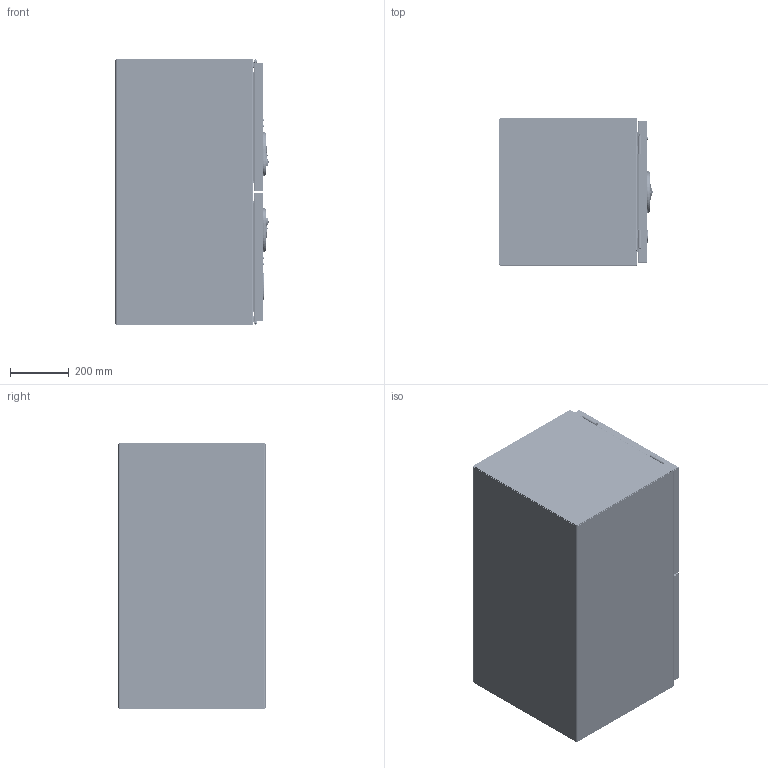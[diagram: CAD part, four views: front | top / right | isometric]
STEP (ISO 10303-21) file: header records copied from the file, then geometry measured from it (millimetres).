
FILE_DESCRIPTION (( 'STEP AP203' ), '1' );
FILE_NAME ('Alu TB (Heavy Duty) with S-Steel Double Door(L900xH500xD500).STEP', '2023-12-18T03:10:06', ( '' ), ( '' ), 'SwSTEP 2.0', 'SolidWorks 2021', '' );
FILE_SCHEMA (( 'CONFIG_CONTROL_DESIGN' ));
Length unit declared in the file: millimetre
Products named in the file (25): Ass Barrel hinge Female Part LH (S-STEEL); Barrel hinge Female Part LH; Card board Box L1200xH500xD500; TA008-1200-STEEL RECTANGULAR PLATE-RH; TA008-1200-P2-LEFT (ALU)_MirrorDefault; Stainless steel washer to suit M4_B18.22M - Plain washer, 4 mm, narrow; TA008-900-P4-LID (S-STEEL)-L; Barrel hinge Female Part RH; GLUE; Grease nipple M6; TA008-1200-P3-MIDDLE PLATE (ALU); TA008-900-P4-LID (S-STEEL)-R; Domed Allen Head Bolt M4-15mm long_B18.3.4M - 4 x 0.7 x 16 SBHCS --C; LABLE; Brass washer M6_Washer ISO 7090 - 6; Alu TB (Heavy Duty) with S-Steel Double Door(L900xH500xD500); TA008-1200-STEEL RECTANGULAR PLATE_LH; TA008-900-P1-BODY (ALU); Barrel Hinge Female Part (S-Steel) Weld on; TA008-1200-P2-LEFT (ALU); Nyloc Nut M4_DIN EN ISO 7040 - M5 - C; TA008-1200-STEEL SQUARE PLATE; AC-Rivet 4mm x 8mmL S-Steel Sealed Dome Rivet; T-Latch Modular (Change for Heavy Duty); Ass Barrel hinge Female Part RH (S-STEEL)
Assembly tree (57 placements, depth 3):
  Card board Box L1200xH500xD500
  GLUE
  Alu TB (Heavy Duty) with S-Steel Double Door(L900xH500xD500)
    TA008-900-P1-BODY (ALU)
    TA008-1200-P2-LEFT (ALU)
    TA008-1200-P3-MIDDLE PLATE (ALU)
    TA008-900-P4-LID (S-STEEL)-L
    TA008-900-P4-LID (S-STEEL)-R
    TA008-1200-STEEL RECTANGULAR PLATE_LH
    TA008-1200-STEEL RECTANGULAR PLATE-RH
    TA008-1200-STEEL SQUARE PLATE  x2
    Ass Barrel hinge Female Part RH (S-STEEL)  x2
      Barrel hinge Female Part RH
      Barrel Hinge Female Part (S-Steel) Weld on
      Grease nipple M6
      Domed Allen Head Bolt M4-15mm long_B18.3.4M - 4 x 0.7 x 16 SBHCS --C
      Stainless steel washer to suit M4_B18.22M - Plain washer, 4 mm, narrow
      Nyloc Nut M4_DIN EN ISO 7040 - M5 - C
      Brass washer M6_Washer ISO 7090 - 6
    Ass Barrel hinge Female Part LH (S-STEEL)  x2
      Barrel hinge Female Part LH
      Barrel Hinge Female Part (S-Steel) Weld on
      Grease nipple M6
      Domed Allen Head Bolt M4-15mm long_B18.3.4M - 4 x 0.7 x 16 SBHCS --C
      Stainless steel washer to suit M4_B18.22M - Plain washer, 4 mm, narrow
      Nyloc Nut M4_DIN EN ISO 7040 - M5 - C
      Brass washer M6_Washer ISO 7090 - 6
    T-Latch Modular (Change for Heavy Duty)  x2
    LABLE
    TA008-1200-P2-LEFT (ALU)_MirrorDefault
    Stainless steel washer to suit M4_B18.22M - Plain washer, 4 mm, narrow  x8
    Domed Allen Head Bolt M4-15mm long_B18.3.4M - 4 x 0.7 x 16 SBHCS --C  x4
    Nyloc Nut M4_DIN EN ISO 7040 - M5 - C  x4
    AC-Rivet 4mm x 8mmL S-Steel Sealed Dome Rivet  x4
Bounding box: 519.33 x 500 x 900 mm (x, y, z)
Volume: 7016672.9 mm3; surface area: 5386418.8 mm2
Topology: 139 solids, 147 shells, 5047 faces, 12021 edges, 7348 vertices
Faces by surface type: plane 2110, cylinder 1525, bspline 724, cone 434, torus 194, sphere 60
Entity records: 110150 total; most frequent: CARTESIAN_POINT 43512, ORIENTED_EDGE 13554, DIRECTION 12244, EDGE_CURVE 6777, VERTEX_POINT 4216, AXIS2_PLACEMENT_3D 4172, VECTOR 3900, LINE 3900
